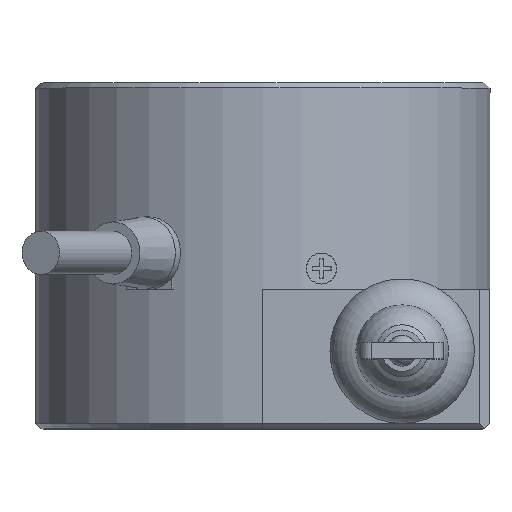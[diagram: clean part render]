
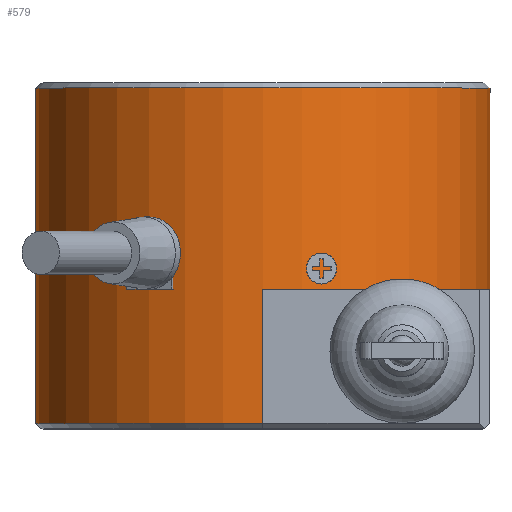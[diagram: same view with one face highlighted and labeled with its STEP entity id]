
A CAD part, top view. The second image highlights one B-rep face of the part: STEP entity #579.
In plain terms, the highlighted cylindrical face has radius 22 mm (diameter 44 mm), a full revolution.
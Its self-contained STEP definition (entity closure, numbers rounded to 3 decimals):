
#579=ADVANCED_FACE('',(#983,#984),#985,.T.);
#983=FACE_OUTER_BOUND('',#1457,.T.);
#984=FACE_OUTER_BOUND('',#1458,.T.);
#985=CYLINDRICAL_SURFACE('',#1459,22.0);
#1457=EDGE_LOOP('',(#2037,#2038,#2039,#2040));
#1458=EDGE_LOOP('',(#2041));
#1459=AXIS2_PLACEMENT_3D('',#2042,#2043,#2044);
#2037=ORIENTED_EDGE('',*,*,#2939,.F.);
#2038=ORIENTED_EDGE('',*,*,#2940,.T.);
#2039=ORIENTED_EDGE('',*,*,#2916,.T.);
#2040=ORIENTED_EDGE('',*,*,#2907,.T.);
#2041=ORIENTED_EDGE('',*,*,#2941,.T.);
#2042=CARTESIAN_POINT('',(0.0,0.0,0.0));
#2043=DIRECTION('',(0.0,-1.0,0.0));
#2044=DIRECTION('',(0.0,0.0,-1.0));
#2907=EDGE_CURVE('',#3344,#3345,#3346,.T.);
#2916=EDGE_CURVE('',#3358,#3344,#3359,.T.);
#2939=EDGE_CURVE('',#3397,#3345,#3398,.T.);
#2940=EDGE_CURVE('',#3397,#3358,#3399,.T.);
#2941=EDGE_CURVE('',#3400,#3400,#3401,.F.);
#3344=VERTEX_POINT('',#4042);
#3345=VERTEX_POINT('',#4043);
#3346=CIRCLE('',#4044,22.0);
#3358=VERTEX_POINT('',#4062);
#3359=LINE('',#4063,#4064);
#3397=VERTEX_POINT('',#4111);
#3398=LINE('',#4112,#4113);
#3399=CIRCLE('',#4114,22.0);
#3400=VERTEX_POINT('',#4115);
#3401=CIRCLE('',#4116,22.0);
#4042=CARTESIAN_POINT('',(0.,13.5,22.0));
#4043=CARTESIAN_POINT('',(22.0,13.5,0.));
#4044=AXIS2_PLACEMENT_3D('',#4907,#4908,#4909);
#4062=CARTESIAN_POINT('',(0.,0.5,22.0));
#4063=CARTESIAN_POINT('',(0.,0.0,22.0));
#4064=VECTOR('',#4916,1.0);
#4111=CARTESIAN_POINT('',(22.0,0.5,0.));
#4112=CARTESIAN_POINT('',(22.0,0.0,0.));
#4113=VECTOR('',#4953,1.0);
#4114=AXIS2_PLACEMENT_3D('',#4954,#4955,#4956);
#4115=CARTESIAN_POINT('',(0.,33.0,22.0));
#4116=AXIS2_PLACEMENT_3D('',#4957,#4958,#4959);
#4907=CARTESIAN_POINT('',(0.,13.5,0.));
#4908=DIRECTION('',(0.0,1.0,0.0));
#4909=DIRECTION('',(-1.0,0.0,0.0));
#4916=DIRECTION('',(0.0,1.0,0.0));
#4953=DIRECTION('',(0.0,1.0,0.0));
#4954=CARTESIAN_POINT('',(0.0,0.5,0.0));
#4955=DIRECTION('',(0.0,1.0,0.0));
#4956=DIRECTION('',(0.0,0.0,1.0));
#4957=CARTESIAN_POINT('',(0.,33.0,0.));
#4958=DIRECTION('',(0.0,1.0,0.0));
#4959=DIRECTION('',(0.0,0.0,1.0));
